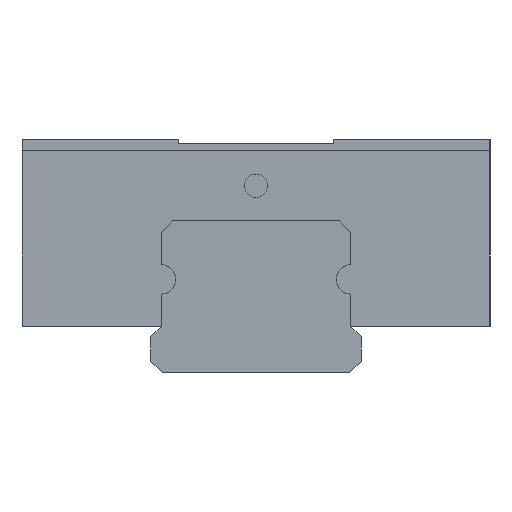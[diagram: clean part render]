
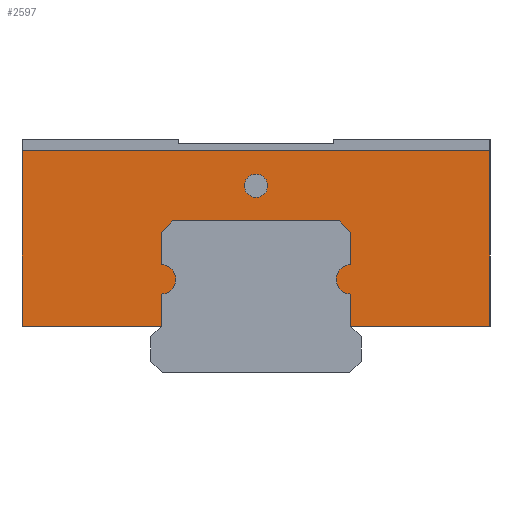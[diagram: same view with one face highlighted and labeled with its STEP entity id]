
A CAD part, left-side view. The second image highlights one B-rep face of the part: STEP entity #2597.
In plain terms, the highlighted planar face has unit normal (-1, 0, 0).
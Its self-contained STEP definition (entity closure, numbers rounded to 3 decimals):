
#1813=CARTESIAN_POINT('',(45.724,0.5,8.0));
#1814=VERTEX_POINT('',#1813);
#1815=CARTESIAN_POINT('',(45.724,0.0,8.0));
#1816=DIRECTION('',(1.0,0.0,0.0));
#1817=DIRECTION('',(0.0,-1.0,0.0));
#1818=AXIS2_PLACEMENT_3D('',#1815,#1816,#1817);
#1819=CIRCLE('',#1818,0.5);
#1820=EDGE_CURVE('',#1814,#1814,#1819,.T.);
#2086=CARTESIAN_POINT('',(45.724,10.0,9.5));
#2087=VERTEX_POINT('',#2086);
#2094=CARTESIAN_POINT('',(45.724,-10.,9.5));
#2095=VERTEX_POINT('',#2094);
#2096=CARTESIAN_POINT('',(45.724,-10.,9.5));
#2097=DIRECTION('',(0.0,1.0,0.0));
#2098=VECTOR('',#2097,20.);
#2099=LINE('',#2096,#2098);
#2100=EDGE_CURVE('',#2095,#2087,#2099,.T.);
#2155=CARTESIAN_POINT('',(45.724,10.0,2.0));
#2156=VERTEX_POINT('',#2155);
#2163=CARTESIAN_POINT('',(45.724,10.0,9.5));
#2164=DIRECTION('',(0.0,0.0,-1.0));
#2165=VECTOR('',#2164,7.5);
#2166=LINE('',#2163,#2165);
#2167=EDGE_CURVE('',#2087,#2156,#2166,.T.);
#2190=CARTESIAN_POINT('',(45.724,4.05,2.0));
#2191=VERTEX_POINT('',#2190);
#2198=CARTESIAN_POINT('',(45.724,10.0,2.0));
#2199=DIRECTION('',(0.0,-1.0,0.0));
#2200=VECTOR('',#2199,5.95);
#2201=LINE('',#2198,#2200);
#2202=EDGE_CURVE('',#2156,#2191,#2201,.T.);
#2221=CARTESIAN_POINT('',(45.724,4.05,3.375));
#2222=VERTEX_POINT('',#2221);
#2229=CARTESIAN_POINT('',(45.724,4.05,2.0));
#2230=DIRECTION('',(0.0,0.0,1.0));
#2231=VECTOR('',#2230,1.375);
#2232=LINE('',#2229,#2231);
#2233=EDGE_CURVE('',#2191,#2222,#2232,.T.);
#2253=CARTESIAN_POINT('',(45.724,4.05,4.625));
#2254=VERTEX_POINT('',#2253);
#2261=CARTESIAN_POINT('',(45.724,4.05,4.0));
#2262=DIRECTION('',(-1.0,0.0,0.0));
#2263=DIRECTION('',(0.0,0.0,-1.0));
#2264=AXIS2_PLACEMENT_3D('',#2261,#2262,#2263);
#2265=CIRCLE('',#2264,0.625);
#2266=EDGE_CURVE('',#2222,#2254,#2265,.T.);
#2285=CARTESIAN_POINT('',(45.724,4.05,6.));
#2286=VERTEX_POINT('',#2285);
#2293=CARTESIAN_POINT('',(45.724,4.05,4.625));
#2294=DIRECTION('',(0.0,0.0,1.0));
#2295=VECTOR('',#2294,1.375);
#2296=LINE('',#2293,#2295);
#2297=EDGE_CURVE('',#2254,#2286,#2296,.T.);
#2316=CARTESIAN_POINT('',(45.724,3.55,6.5));
#2317=VERTEX_POINT('',#2316);
#2324=CARTESIAN_POINT('',(45.724,4.05,6.));
#2325=DIRECTION('',(0.0,-0.707,0.707));
#2326=VECTOR('',#2325,0.707);
#2327=LINE('',#2324,#2326);
#2328=EDGE_CURVE('',#2286,#2317,#2327,.T.);
#2347=CARTESIAN_POINT('',(45.724,-3.55,6.5));
#2348=VERTEX_POINT('',#2347);
#2355=CARTESIAN_POINT('',(45.724,3.55,6.5));
#2356=DIRECTION('',(0.0,-1.0,0.0));
#2357=VECTOR('',#2356,7.1);
#2358=LINE('',#2355,#2357);
#2359=EDGE_CURVE('',#2317,#2348,#2358,.T.);
#2378=CARTESIAN_POINT('',(45.724,-4.05,6.));
#2379=VERTEX_POINT('',#2378);
#2386=CARTESIAN_POINT('',(45.724,-3.55,6.5));
#2387=DIRECTION('',(0.0,-0.707,-0.707));
#2388=VECTOR('',#2387,0.707);
#2389=LINE('',#2386,#2388);
#2390=EDGE_CURVE('',#2348,#2379,#2389,.T.);
#2409=CARTESIAN_POINT('',(45.724,-4.05,4.625));
#2410=VERTEX_POINT('',#2409);
#2417=CARTESIAN_POINT('',(45.724,-4.05,6.));
#2418=DIRECTION('',(0.0,0.0,-1.0));
#2419=VECTOR('',#2418,1.375);
#2420=LINE('',#2417,#2419);
#2421=EDGE_CURVE('',#2379,#2410,#2420,.T.);
#2441=CARTESIAN_POINT('',(45.724,-4.05,3.375));
#2442=VERTEX_POINT('',#2441);
#2449=CARTESIAN_POINT('',(45.724,-4.05,4.0));
#2450=DIRECTION('',(-1.0,0.0,0.0));
#2451=DIRECTION('',(0.0,0.0,1.0));
#2452=AXIS2_PLACEMENT_3D('',#2449,#2450,#2451);
#2453=CIRCLE('',#2452,0.625);
#2454=EDGE_CURVE('',#2410,#2442,#2453,.T.);
#2473=CARTESIAN_POINT('',(45.724,-4.05,2.0));
#2474=VERTEX_POINT('',#2473);
#2481=CARTESIAN_POINT('',(45.724,-4.05,3.375));
#2482=DIRECTION('',(0.0,0.0,-1.0));
#2483=VECTOR('',#2482,1.375);
#2484=LINE('',#2481,#2483);
#2485=EDGE_CURVE('',#2442,#2474,#2484,.T.);
#2504=CARTESIAN_POINT('',(45.724,-10.,2.0));
#2505=VERTEX_POINT('',#2504);
#2512=CARTESIAN_POINT('',(45.724,-4.05,2.0));
#2513=DIRECTION('',(0.0,-1.0,0.0));
#2514=VECTOR('',#2513,5.95);
#2515=LINE('',#2512,#2514);
#2516=EDGE_CURVE('',#2474,#2505,#2515,.T.);
#2538=CARTESIAN_POINT('',(45.724,-10.,2.0));
#2539=DIRECTION('',(0.0,0.0,1.0));
#2540=VECTOR('',#2539,7.5);
#2541=LINE('',#2538,#2540);
#2542=EDGE_CURVE('',#2505,#2095,#2541,.T.);
#2573=CARTESIAN_POINT('',(45.724,0.,6.057));
#2574=DIRECTION('',(1.0,0.0,0.0));
#2575=DIRECTION('',(0.0,0.0,-1.0));
#2576=AXIS2_PLACEMENT_3D('',#2573,#2574,#2575);
#2577=PLANE('',#2576);
#2578=ORIENTED_EDGE('',*,*,#2542,.T.);
#2579=ORIENTED_EDGE('',*,*,#2100,.T.);
#2580=ORIENTED_EDGE('',*,*,#2167,.T.);
#2581=ORIENTED_EDGE('',*,*,#2202,.T.);
#2582=ORIENTED_EDGE('',*,*,#2233,.T.);
#2583=ORIENTED_EDGE('',*,*,#2266,.T.);
#2584=ORIENTED_EDGE('',*,*,#2297,.T.);
#2585=ORIENTED_EDGE('',*,*,#2328,.T.);
#2586=ORIENTED_EDGE('',*,*,#2359,.T.);
#2587=ORIENTED_EDGE('',*,*,#2390,.T.);
#2588=ORIENTED_EDGE('',*,*,#2421,.T.);
#2589=ORIENTED_EDGE('',*,*,#2454,.T.);
#2590=ORIENTED_EDGE('',*,*,#2485,.T.);
#2591=ORIENTED_EDGE('',*,*,#2516,.T.);
#2592=EDGE_LOOP('',(#2578,#2579,#2580,#2581,#2582,#2583,#2584,#2585,#2586,#2587,#2588,#2589,#2590,#2591));
#2593=FACE_OUTER_BOUND('',#2592,.T.);
#2594=ORIENTED_EDGE('',*,*,#1820,.T.);
#2595=EDGE_LOOP('',(#2594));
#2596=FACE_BOUND('',#2595,.T.);
#2597=ADVANCED_FACE('',(#2593,#2596),#2577,.F.);
